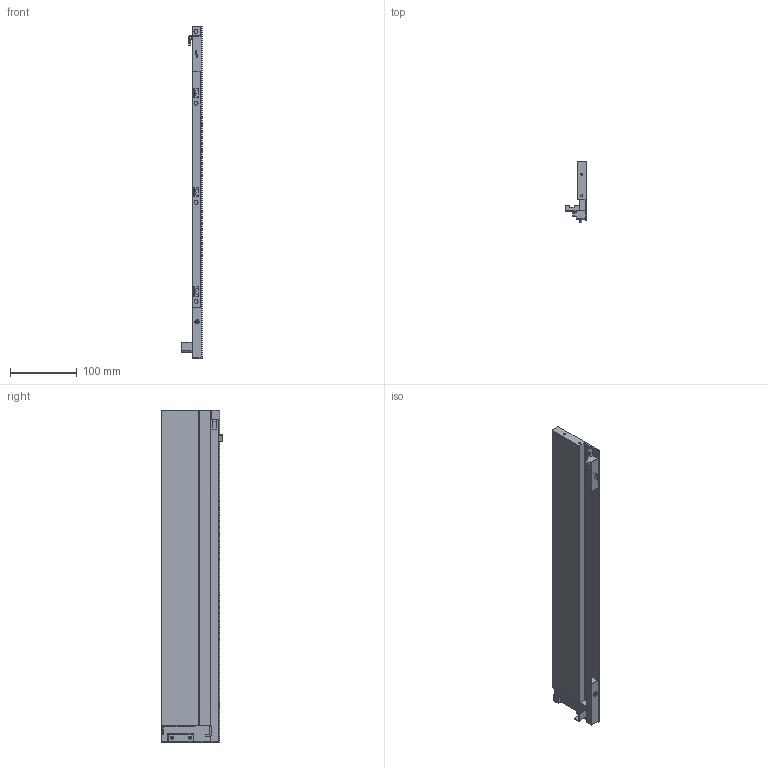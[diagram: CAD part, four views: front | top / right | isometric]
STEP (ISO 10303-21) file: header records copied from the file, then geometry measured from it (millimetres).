
FILE_DESCRIPTION (( 'STEP AP203' ), '1' );
FILE_NAME ('HT115001-R.STEP', '2021-03-16T02:18:04', ( 'Users' ), ( 'Microsoft' ), 'SwSTEP 2.0', 'SolidWorks 2018', '' );
FILE_SCHEMA (( 'CONFIG_CONTROL_DESIGN' ));
Length unit declared in the file: millimetre
Products named in the file (1): HT115001-R
Bounding box: 31.3 x 93 x 499 mm (x, y, z)
Volume: 428958.1 mm3; surface area: 126043.7 mm2
Topology: 1 solids, 8 shells, 402 faces, 1019 edges, 633 vertices
Faces by surface type: plane 199, cylinder 139, torus 29, bspline 23, cone 6, sphere 6
Entity records: 12556 total; most frequent: CARTESIAN_POINT 2954, ORIENTED_EDGE 2020, DIRECTION 1947, EDGE_CURVE 1010, AXIS2_PLACEMENT_3D 660, VERTEX_POINT 633, VECTOR 627, LINE 627
